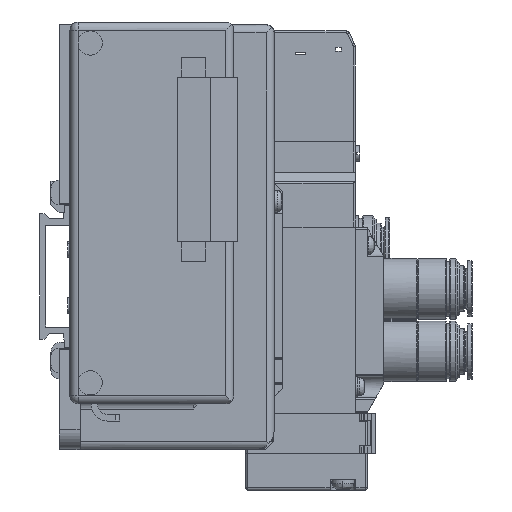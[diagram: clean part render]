
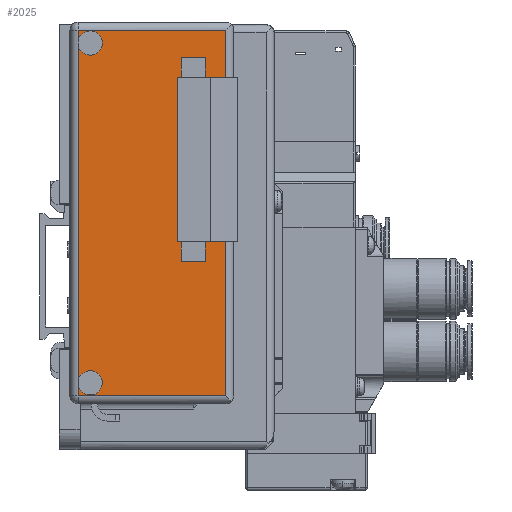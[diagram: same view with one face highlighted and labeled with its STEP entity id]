
A CAD part, left-side view. The second image highlights one B-rep face of the part: STEP entity #2025.
In plain terms, the highlighted planar face has unit normal (-1, 0, 0).
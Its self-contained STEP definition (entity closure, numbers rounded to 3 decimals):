
#2025=ADVANCED_FACE('',(#14443,#14444),#14442,.F.);
#14442=PLANE('',#27124);
#14443=FACE_OUTER_BOUND('',#27125,.T.);
#14444=FACE_BOUND('',#27126,.T.);
#27121=CARTESIAN_POINT('',(-50.,-49.65,72.335));
#27122=DIRECTION('',(1.,0.,0.));
#27123=DIRECTION('',(0.,0.,-1.));
#27124=AXIS2_PLACEMENT_3D('',#27121,#27122,#27123);
#27125=EDGE_LOOP('',(#36919,#36920,#36921,#36922,#36923,#36924,#36925,#36926,#36927,#36928,#36929,#36930));
#27126=EDGE_LOOP('',(#36931,#36932,#36933,#36934,#36935,#36936,#36937,#36938));
#36919=ORIENTED_EDGE('',*,*,#42849,.T.);
#36920=ORIENTED_EDGE('',*,*,#42850,.T.);
#36921=ORIENTED_EDGE('',*,*,#42851,.T.);
#36922=ORIENTED_EDGE('',*,*,#42852,.T.);
#36923=ORIENTED_EDGE('',*,*,#42853,.F.);
#36924=ORIENTED_EDGE('',*,*,#42854,.F.);
#36925=ORIENTED_EDGE('',*,*,#42855,.F.);
#36926=ORIENTED_EDGE('',*,*,#42856,.T.);
#36927=ORIENTED_EDGE('',*,*,#42857,.F.);
#36928=ORIENTED_EDGE('',*,*,#42858,.F.);
#36929=ORIENTED_EDGE('',*,*,#42859,.F.);
#36930=ORIENTED_EDGE('',*,*,#42860,.T.);
#36931=ORIENTED_EDGE('',*,*,#42861,.F.);
#36932=ORIENTED_EDGE('',*,*,#42862,.T.);
#36933=ORIENTED_EDGE('',*,*,#42863,.T.);
#36934=ORIENTED_EDGE('',*,*,#42864,.T.);
#36935=ORIENTED_EDGE('',*,*,#42865,.F.);
#36936=ORIENTED_EDGE('',*,*,#42866,.T.);
#36937=ORIENTED_EDGE('',*,*,#42867,.T.);
#36938=ORIENTED_EDGE('',*,*,#42868,.F.);
#42849=EDGE_CURVE('',#64939,#64940,#64941,.T.);
#42850=EDGE_CURVE('',#64940,#64947,#64948,.T.);
#42851=EDGE_CURVE('',#64947,#64954,#64955,.T.);
#42852=EDGE_CURVE('',#64954,#64961,#64962,.T.);
#42853=EDGE_CURVE('',#64968,#64961,#64969,.T.);
#42854=EDGE_CURVE('',#64975,#64968,#64976,.T.);
#42855=EDGE_CURVE('',#64961,#64975,#64982,.T.);
#42856=EDGE_CURVE('',#64961,#64988,#64989,.T.);
#42857=EDGE_CURVE('',#64995,#64988,#64996,.T.);
#42858=EDGE_CURVE('',#65002,#64995,#65003,.T.);
#42859=EDGE_CURVE('',#64988,#65002,#65009,.T.);
#42860=EDGE_CURVE('',#64988,#64939,#65015,.T.);
#42861=EDGE_CURVE('',#65021,#65022,#65023,.T.);
#42862=EDGE_CURVE('',#65021,#65029,#65030,.T.);
#42863=EDGE_CURVE('',#65029,#65036,#65037,.T.);
#42864=EDGE_CURVE('',#65036,#65043,#65044,.T.);
#42865=EDGE_CURVE('',#65050,#65043,#65051,.T.);
#42866=EDGE_CURVE('',#65050,#65057,#65058,.T.);
#42867=EDGE_CURVE('',#65057,#65064,#65065,.T.);
#42868=EDGE_CURVE('',#65022,#65064,#65071,.T.);
#64939=VERTEX_POINT('',#86312);
#64940=VERTEX_POINT('',#86313);
#64941=LINE('',#86314,#86315);
#64947=VERTEX_POINT('',#86317);
#64948=LINE('',#86318,#86319);
#64954=VERTEX_POINT('',#86321);
#64955=LINE('',#86322,#86323);
#64961=VERTEX_POINT('',#86325);
#64962=LINE('',#86326,#86327);
#64968=VERTEX_POINT('',#86329);
#64969=CIRCLE('',#86333,3.);
#64975=VERTEX_POINT('',#86334);
#64976=CIRCLE('',#86338,3.);
#64982=CIRCLE('',#86342,3.);
#64988=VERTEX_POINT('',#86343);
#64989=LINE('',#86344,#86345);
#64995=VERTEX_POINT('',#86347);
#64996=CIRCLE('',#86351,3.);
#65002=VERTEX_POINT('',#86352);
#65003=CIRCLE('',#86356,3.);
#65009=CIRCLE('',#86360,3.);
#65015=LINE('',#86361,#86362);
#65021=VERTEX_POINT('',#86364);
#65022=VERTEX_POINT('',#86365);
#65023=LINE('',#86366,#86367);
#65029=VERTEX_POINT('',#86369);
#65030=LINE('',#86370,#86371);
#65036=VERTEX_POINT('',#86373);
#65037=LINE('',#86374,#86375);
#65043=VERTEX_POINT('',#86377);
#65044=LINE('',#86378,#86379);
#65050=VERTEX_POINT('',#86381);
#65051=LINE('',#86382,#86383);
#65057=VERTEX_POINT('',#86385);
#65058=LINE('',#86386,#86387);
#65064=VERTEX_POINT('',#86389);
#65065=LINE('',#86390,#86391);
#65071=LINE('',#86393,#86394);
#86312=CARTESIAN_POINT('',(-50.,-9.5,-29.5));
#86313=CARTESIAN_POINT('',(-50.,-46.,-29.5));
#86314=CARTESIAN_POINT('',(-50.,-9.5,-29.5));
#86315=VECTOR('',#86316,36.5);
#86316=DIRECTION('',(0.,-1.,0.));
#86317=CARTESIAN_POINT('',(-50.,-46.,60.9));
#86318=CARTESIAN_POINT('',(-50.,-46.,-29.5));
#86319=VECTOR('',#86320,90.4);
#86320=DIRECTION('',(0.,0.,1.));
#86321=CARTESIAN_POINT('',(-50.,-9.5,60.9));
#86322=CARTESIAN_POINT('',(-50.,-46.,60.9));
#86323=VECTOR('',#86324,36.5);
#86324=DIRECTION('',(0.,1.,0.));
#86325=CARTESIAN_POINT('',(-50.,-9.5,57.7));
#86326=CARTESIAN_POINT('',(-50.,-9.5,60.9));
#86327=VECTOR('',#86328,3.2);
#86328=DIRECTION('',(0.,0.,-1.));
#86329=CARTESIAN_POINT('',(-50.,-12.5,60.7));
#86330=CARTESIAN_POINT('',(-50.,-12.5,57.7));
#86331=DIRECTION('',(-1.,0.,0.));
#86332=DIRECTION('',(0.,1.,0.));
#86333=AXIS2_PLACEMENT_3D('',#86330,#86331,#86332);
#86334=CARTESIAN_POINT('',(-50.,-12.5,54.7));
#86335=CARTESIAN_POINT('',(-50.,-12.5,57.7));
#86336=DIRECTION('',(-1.,0.,0.));
#86337=DIRECTION('',(0.,1.,0.));
#86338=AXIS2_PLACEMENT_3D('',#86335,#86336,#86337);
#86339=CARTESIAN_POINT('',(-50.,-12.5,57.7));
#86340=DIRECTION('',(-1.,0.,0.));
#86341=DIRECTION('',(0.,1.,0.));
#86342=AXIS2_PLACEMENT_3D('',#86339,#86340,#86341);
#86343=CARTESIAN_POINT('',(-50.,-9.5,-26.3));
#86344=CARTESIAN_POINT('',(-50.,-9.5,57.7));
#86345=VECTOR('',#86346,84.);
#86346=DIRECTION('',(0.,0.,-1.));
#86347=CARTESIAN_POINT('',(-50.,-12.5,-23.3));
#86348=CARTESIAN_POINT('',(-50.,-12.5,-26.3));
#86349=DIRECTION('',(-1.,0.,0.));
#86350=DIRECTION('',(0.,1.,0.));
#86351=AXIS2_PLACEMENT_3D('',#86348,#86349,#86350);
#86352=CARTESIAN_POINT('',(-50.,-12.5,-29.3));
#86353=CARTESIAN_POINT('',(-50.,-12.5,-26.3));
#86354=DIRECTION('',(-1.,0.,0.));
#86355=DIRECTION('',(0.,1.,0.));
#86356=AXIS2_PLACEMENT_3D('',#86353,#86354,#86355);
#86357=CARTESIAN_POINT('',(-50.,-12.5,-26.3));
#86358=DIRECTION('',(-1.,0.,0.));
#86359=DIRECTION('',(0.,1.,0.));
#86360=AXIS2_PLACEMENT_3D('',#86357,#86358,#86359);
#86361=CARTESIAN_POINT('',(-50.,-9.5,-26.3));
#86362=VECTOR('',#86363,3.2);
#86363=DIRECTION('',(0.,0.,-1.));
#86364=CARTESIAN_POINT('',(-50.,-41.,54.12));
#86365=CARTESIAN_POINT('',(-50.,-35.,54.12));
#86366=CARTESIAN_POINT('',(-50.,-41.,54.12));
#86367=VECTOR('',#86368,6.);
#86368=DIRECTION('',(0.,1.,0.));
#86369=CARTESIAN_POINT('',(-50.,-41.,49.22));
#86370=CARTESIAN_POINT('',(-50.,-41.,54.12));
#86371=VECTOR('',#86372,4.9);
#86372=DIRECTION('',(0.,0.,-1.));
#86373=CARTESIAN_POINT('',(-50.,-44.5,49.22));
#86374=CARTESIAN_POINT('',(-50.,-41.,49.22));
#86375=VECTOR('',#86376,3.5);
#86376=DIRECTION('',(0.,-1.,0.));
#86377=CARTESIAN_POINT('',(-50.,-44.5,8.58));
#86378=CARTESIAN_POINT('',(-50.,-44.5,49.22));
#86379=VECTOR('',#86380,40.64);
#86380=DIRECTION('',(0.,0.,-1.));
#86381=CARTESIAN_POINT('',(-50.,-41.,8.58));
#86382=CARTESIAN_POINT('',(-50.,-41.,8.58));
#86383=VECTOR('',#86384,3.5);
#86384=DIRECTION('',(0.,-1.,0.));
#86385=CARTESIAN_POINT('',(-50.,-41.,3.68));
#86386=CARTESIAN_POINT('',(-50.,-41.,8.58));
#86387=VECTOR('',#86388,4.9);
#86388=DIRECTION('',(0.,0.,-1.));
#86389=CARTESIAN_POINT('',(-50.,-35.,3.68));
#86390=CARTESIAN_POINT('',(-50.,-41.,3.68));
#86391=VECTOR('',#86392,6.);
#86392=DIRECTION('',(0.,1.,0.));
#86393=CARTESIAN_POINT('',(-50.,-35.,54.12));
#86394=VECTOR('',#86395,50.44);
#86395=DIRECTION('',(0.,0.,-1.));
